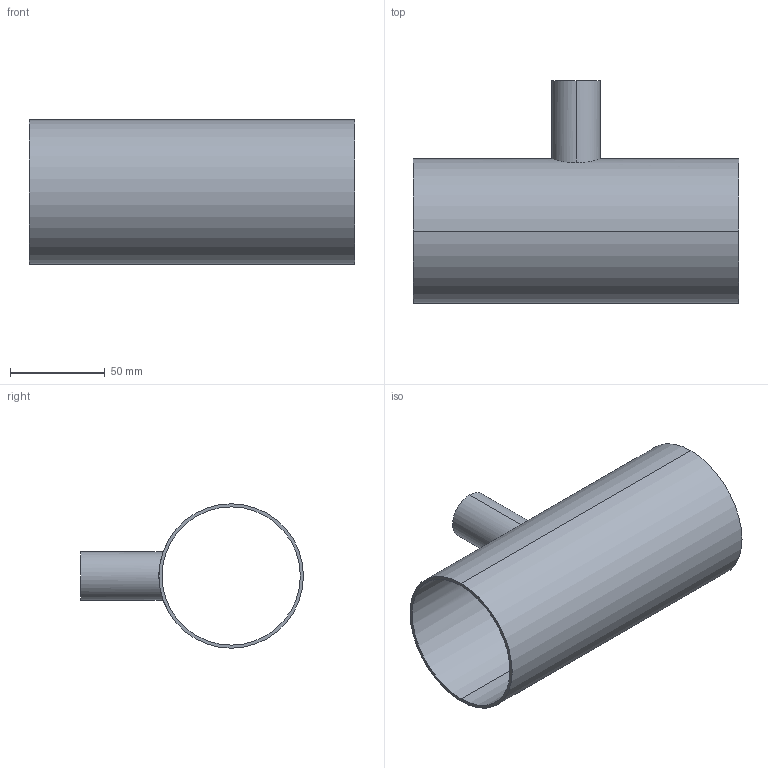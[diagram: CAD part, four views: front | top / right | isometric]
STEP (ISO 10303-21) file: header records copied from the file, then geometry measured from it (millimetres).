
FILE_DESCRIPTION (( 'STEP AP214' ), '1' );
FILE_NAME ('TE7RWWW6L3.0x1.0-...STEP', '2016-05-24T04:23:40', ( 'eran' ), ( '' ), 'SwSTEP 2.0', 'SolidWorks 2016', '' );
FILE_SCHEMA (( 'AUTOMOTIVE_DESIGN' ));
Length unit declared in the file: millimetre
Products named in the file (1): TE7RWWW6L3.0x1.0-..
Bounding box: 171.4 x 117.5 x 76.2 mm (x, y, z)
Volume: 70796.7 mm3; surface area: 86702.6 mm2
Topology: 1 solids, 1 shells, 11 faces, 24 edges, 16 vertices
Faces by surface type: cylinder 8, plane 3
Entity records: 532 total; most frequent: CARTESIAN_POINT 240, DIRECTION 56, ORIENTED_EDGE 48, AXIS2_PLACEMENT_3D 24, EDGE_CURVE 24, EDGE_LOOP 16, VERTEX_POINT 16, CIRCLE 12
